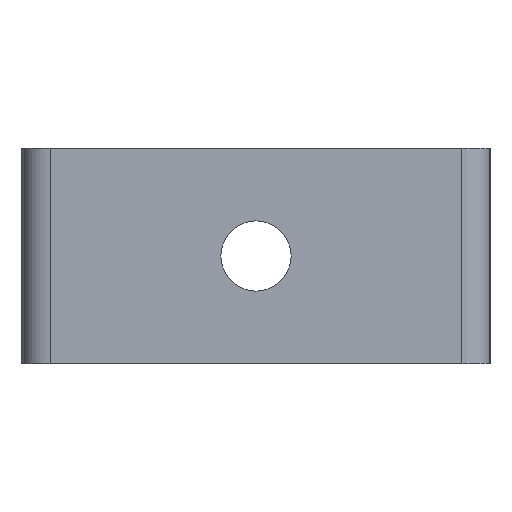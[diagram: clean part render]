
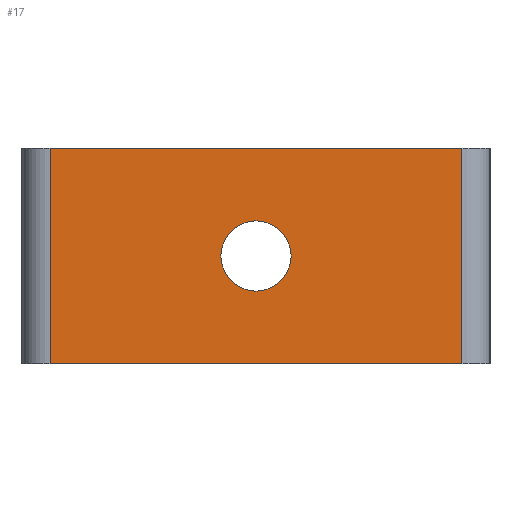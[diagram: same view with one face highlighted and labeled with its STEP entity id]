
A CAD part, left-side view. The second image highlights one B-rep face of the part: STEP entity #17.
In plain terms, the highlighted planar face has unit normal (-1, 0, 0).
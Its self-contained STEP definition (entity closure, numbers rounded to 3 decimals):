
#17 = ADVANCED_FACE('',(#18,#137),#32,.F.);
#18 = FACE_BOUND('',#19,.F.);
#19 = EDGE_LOOP('',(#20,#55,#83,#111));
#20 = ORIENTED_EDGE('',*,*,#21,.F.);
#21 = EDGE_CURVE('',#22,#24,#26,.T.);
#22 = VERTEX_POINT('',#23);
#23 = CARTESIAN_POINT('',(-46.,-8.8,4.6));
#24 = VERTEX_POINT('',#25);
#25 = CARTESIAN_POINT('',(-46.,8.8,4.6));
#26 = SURFACE_CURVE('',#27,(#31,#43),.PCURVE_S1.);
#27 = LINE('',#28,#29);
#28 = CARTESIAN_POINT('',(-46.,-10.,4.6));
#29 = VECTOR('',#30,1.);
#30 = DIRECTION('',(0.,1.,0.));
#31 = PCURVE('',#32,#37);
#32 = PLANE('',#33);
#33 = AXIS2_PLACEMENT_3D('',#34,#35,#36);
#34 = CARTESIAN_POINT('',(-46.,-10.,-4.6));
#35 = DIRECTION('',(1.,0.,0.));
#36 = DIRECTION('',(0.,0.,1.));
#37 = DEFINITIONAL_REPRESENTATION('',(#38),#42);
#38 = LINE('',#39,#40);
#39 = CARTESIAN_POINT('',(9.2,0.));
#40 = VECTOR('',#41,1.);
#41 = DIRECTION('',(0.,-1.));
#42 = ( GEOMETRIC_REPRESENTATION_CONTEXT(2) 
PARAMETRIC_REPRESENTATION_CONTEXT() REPRESENTATION_CONTEXT('2D SPACE',''
  ) );
#43 = PCURVE('',#44,#49);
#44 = PLANE('',#45);
#45 = AXIS2_PLACEMENT_3D('',#46,#47,#48);
#46 = CARTESIAN_POINT('',(-46.,-10.,4.6));
#47 = DIRECTION('',(0.,0.,1.));
#48 = DIRECTION('',(1.,0.,0.));
#49 = DEFINITIONAL_REPRESENTATION('',(#50),#54);
#50 = LINE('',#51,#52);
#51 = CARTESIAN_POINT('',(0.,0.));
#52 = VECTOR('',#53,1.);
#53 = DIRECTION('',(0.,1.));
#54 = ( GEOMETRIC_REPRESENTATION_CONTEXT(2) 
PARAMETRIC_REPRESENTATION_CONTEXT() REPRESENTATION_CONTEXT('2D SPACE',''
  ) );
#55 = ORIENTED_EDGE('',*,*,#56,.F.);
#56 = EDGE_CURVE('',#57,#22,#59,.T.);
#57 = VERTEX_POINT('',#58);
#58 = CARTESIAN_POINT('',(-46.,-8.8,-4.6));
#59 = SURFACE_CURVE('',#60,(#64,#71),.PCURVE_S1.);
#60 = LINE('',#61,#62);
#61 = CARTESIAN_POINT('',(-46.,-8.8,-4.6));
#62 = VECTOR('',#63,1.);
#63 = DIRECTION('',(0.,0.,1.));
#64 = PCURVE('',#32,#65);
#65 = DEFINITIONAL_REPRESENTATION('',(#66),#70);
#66 = LINE('',#67,#68);
#67 = CARTESIAN_POINT('',(0.,-1.2));
#68 = VECTOR('',#69,1.);
#69 = DIRECTION('',(1.,0.));
#70 = ( GEOMETRIC_REPRESENTATION_CONTEXT(2) 
PARAMETRIC_REPRESENTATION_CONTEXT() REPRESENTATION_CONTEXT('2D SPACE',''
  ) );
#71 = PCURVE('',#72,#77);
#72 = CYLINDRICAL_SURFACE('',#73,1.2);
#73 = AXIS2_PLACEMENT_3D('',#74,#75,#76);
#74 = CARTESIAN_POINT('',(-44.8,-8.8,-4.6));
#75 = DIRECTION('',(0.,0.,1.));
#76 = DIRECTION('',(-1.,-0.,0.));
#77 = DEFINITIONAL_REPRESENTATION('',(#78),#82);
#78 = LINE('',#79,#80);
#79 = CARTESIAN_POINT('',(0.,0.));
#80 = VECTOR('',#81,1.);
#81 = DIRECTION('',(0.,1.));
#82 = ( GEOMETRIC_REPRESENTATION_CONTEXT(2) 
PARAMETRIC_REPRESENTATION_CONTEXT() REPRESENTATION_CONTEXT('2D SPACE',''
  ) );
#83 = ORIENTED_EDGE('',*,*,#84,.T.);
#84 = EDGE_CURVE('',#57,#85,#87,.T.);
#85 = VERTEX_POINT('',#86);
#86 = CARTESIAN_POINT('',(-46.,8.8,-4.6));
#87 = SURFACE_CURVE('',#88,(#92,#99),.PCURVE_S1.);
#88 = LINE('',#89,#90);
#89 = CARTESIAN_POINT('',(-46.,-10.,-4.6));
#90 = VECTOR('',#91,1.);
#91 = DIRECTION('',(0.,1.,0.));
#92 = PCURVE('',#32,#93);
#93 = DEFINITIONAL_REPRESENTATION('',(#94),#98);
#94 = LINE('',#95,#96);
#95 = CARTESIAN_POINT('',(0.,0.));
#96 = VECTOR('',#97,1.);
#97 = DIRECTION('',(0.,-1.));
#98 = ( GEOMETRIC_REPRESENTATION_CONTEXT(2) 
PARAMETRIC_REPRESENTATION_CONTEXT() REPRESENTATION_CONTEXT('2D SPACE',''
  ) );
#99 = PCURVE('',#100,#105);
#100 = PLANE('',#101);
#101 = AXIS2_PLACEMENT_3D('',#102,#103,#104);
#102 = CARTESIAN_POINT('',(-46.,-10.,-4.6));
#103 = DIRECTION('',(0.,0.,1.));
#104 = DIRECTION('',(1.,0.,0.));
#105 = DEFINITIONAL_REPRESENTATION('',(#106),#110);
#106 = LINE('',#107,#108);
#107 = CARTESIAN_POINT('',(0.,0.));
#108 = VECTOR('',#109,1.);
#109 = DIRECTION('',(0.,1.));
#110 = ( GEOMETRIC_REPRESENTATION_CONTEXT(2) 
PARAMETRIC_REPRESENTATION_CONTEXT() REPRESENTATION_CONTEXT('2D SPACE',''
  ) );
#111 = ORIENTED_EDGE('',*,*,#112,.T.);
#112 = EDGE_CURVE('',#85,#24,#113,.T.);
#113 = SURFACE_CURVE('',#114,(#118,#125),.PCURVE_S1.);
#114 = LINE('',#115,#116);
#115 = CARTESIAN_POINT('',(-46.,8.8,-4.6));
#116 = VECTOR('',#117,1.);
#117 = DIRECTION('',(0.,0.,1.));
#118 = PCURVE('',#32,#119);
#119 = DEFINITIONAL_REPRESENTATION('',(#120),#124);
#120 = LINE('',#121,#122);
#121 = CARTESIAN_POINT('',(0.,-18.8));
#122 = VECTOR('',#123,1.);
#123 = DIRECTION('',(1.,0.));
#124 = ( GEOMETRIC_REPRESENTATION_CONTEXT(2) 
PARAMETRIC_REPRESENTATION_CONTEXT() REPRESENTATION_CONTEXT('2D SPACE',''
  ) );
#125 = PCURVE('',#126,#131);
#126 = CYLINDRICAL_SURFACE('',#127,1.2);
#127 = AXIS2_PLACEMENT_3D('',#128,#129,#130);
#128 = CARTESIAN_POINT('',(-44.8,8.8,-4.6));
#129 = DIRECTION('',(0.,0.,1.));
#130 = DIRECTION('',(-1.,-0.,0.));
#131 = DEFINITIONAL_REPRESENTATION('',(#132),#136);
#132 = LINE('',#133,#134);
#133 = CARTESIAN_POINT('',(-0.,0.));
#134 = VECTOR('',#135,1.);
#135 = DIRECTION('',(-0.,1.));
#136 = ( GEOMETRIC_REPRESENTATION_CONTEXT(2) 
PARAMETRIC_REPRESENTATION_CONTEXT() REPRESENTATION_CONTEXT('2D SPACE',''
  ) );
#137 = FACE_BOUND('',#138,.F.);
#138 = EDGE_LOOP('',(#139));
#139 = ORIENTED_EDGE('',*,*,#140,.T.);
#140 = EDGE_CURVE('',#141,#141,#143,.T.);
#141 = VERTEX_POINT('',#142);
#142 = CARTESIAN_POINT('',(-46.,-1.5,0.));
#143 = SURFACE_CURVE('',#144,(#149,#160),.PCURVE_S1.);
#144 = CIRCLE('',#145,1.5);
#145 = AXIS2_PLACEMENT_3D('',#146,#147,#148);
#146 = CARTESIAN_POINT('',(-46.,0.,0.));
#147 = DIRECTION('',(-1.,0.,0.));
#148 = DIRECTION('',(0.,-1.,0.));
#149 = PCURVE('',#32,#150);
#150 = DEFINITIONAL_REPRESENTATION('',(#151),#159);
#151 = ( BOUNDED_CURVE() B_SPLINE_CURVE(2,(#152,#153,#154,#155,#156,#157
,#158),.UNSPECIFIED.,.T.,.F.) B_SPLINE_CURVE_WITH_KNOTS((1,2,2,2,2,1),(
    -2.094,0.,2.094,4.189,6.283,
8.378),.UNSPECIFIED.) CURVE() GEOMETRIC_REPRESENTATION_ITEM() 
RATIONAL_B_SPLINE_CURVE((1.,0.5,1.,0.5,1.,0.5,1.)) REPRESENTATION_ITEM(
  '') );
#152 = CARTESIAN_POINT('',(4.6,-8.5));
#153 = CARTESIAN_POINT('',(7.198,-8.5));
#154 = CARTESIAN_POINT('',(5.899,-10.75));
#155 = CARTESIAN_POINT('',(4.6,-13.));
#156 = CARTESIAN_POINT('',(3.301,-10.75));
#157 = CARTESIAN_POINT('',(2.002,-8.5));
#158 = CARTESIAN_POINT('',(4.6,-8.5));
#159 = ( GEOMETRIC_REPRESENTATION_CONTEXT(2) 
PARAMETRIC_REPRESENTATION_CONTEXT() REPRESENTATION_CONTEXT('2D SPACE',''
  ) );
#160 = PCURVE('',#161,#166);
#161 = CYLINDRICAL_SURFACE('',#162,1.5);
#162 = AXIS2_PLACEMENT_3D('',#163,#164,#165);
#163 = CARTESIAN_POINT('',(46.,0.,0.));
#164 = DIRECTION('',(-1.,0.,0.));
#165 = DIRECTION('',(0.,-1.,0.));
#166 = DEFINITIONAL_REPRESENTATION('',(#167),#171);
#167 = LINE('',#168,#169);
#168 = CARTESIAN_POINT('',(0.,92.));
#169 = VECTOR('',#170,1.);
#170 = DIRECTION('',(1.,0.));
#171 = ( GEOMETRIC_REPRESENTATION_CONTEXT(2) 
PARAMETRIC_REPRESENTATION_CONTEXT() REPRESENTATION_CONTEXT('2D SPACE',''
  ) );
